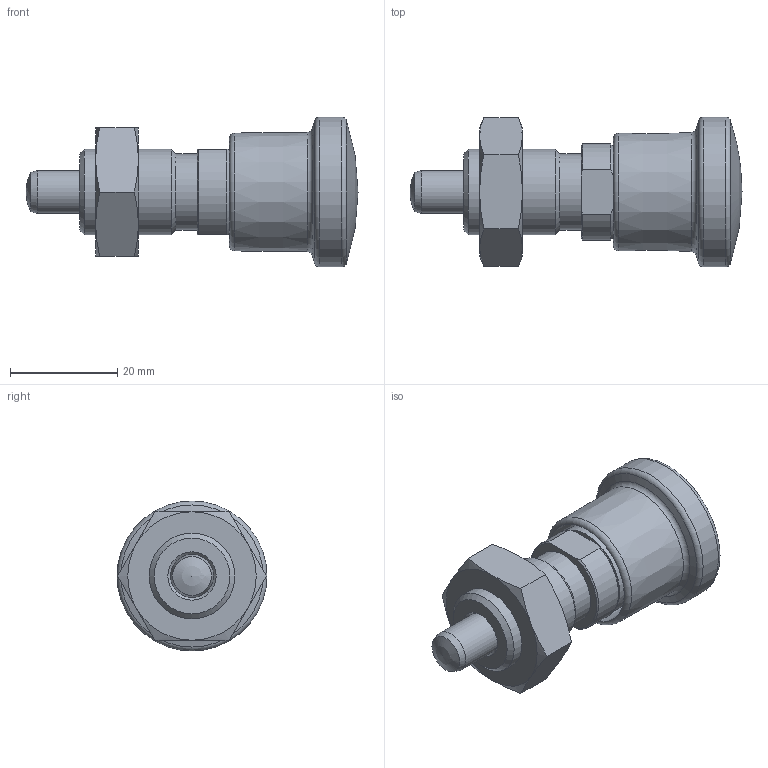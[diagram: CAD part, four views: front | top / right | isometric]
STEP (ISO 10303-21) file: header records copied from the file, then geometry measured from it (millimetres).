
FILE_DESCRIPTION( ( 'STEP AP203' ), '1' );
FILE_NAME( 'C:/Temp/Ganter_Step_05_03_2020/data/3_1/gn816/gn_816_ark/Locking plunger GN 816-8-M16x1,5-ARK (deactivated).stp', '2020-03-12T08:55:51', ( 'License CC BY-ND 4.0' ), ( 'CADENAS' ), ' ', 'PARTsolutions', ' ' );
FILE_SCHEMA( ( 'CONFIG_CONTROL_DESIGN' ) );
Length unit declared in the file: millimetre
Products named in the file (4): Locking plunger GN 816-8-M16x1,5-ARK (deactivated); _GN 816-8-M16x1,5-AR0-2; _GN 816-8-M16x1,5-AR (0)-1; _Lock nut ISO 8675 GN 816-8-M16x1,5-AK
Assembly tree (3 placements, depth 2):
  Locking plunger GN 816-8-M16x1,5-ARK (deactivated)
    _GN 816-8-M16x1,5-AR0-2
    _GN 816-8-M16x1,5-AR (0)-1
    _Lock nut ISO 8675 GN 816-8-M16x1,5-AK
Bounding box: 62 x 28 x 28 mm (x, y, z)
Volume: 17165.5 mm3; surface area: 11544.4 mm2
Topology: 3 solids, 3 shells, 75 faces, 155 edges, 94 vertices
Faces by surface type: cone 29, plane 22, cylinder 16, torus 6, sphere 2
Full cylindrical faces by diameter (mm): 2.9 x2, 3 x2, 7 x1, 8 x2, 11.1 x1, 14.2 x1, 14.376 x1, 16 x1, 18.2 x1, 20.017 x1, 28 x1
Entity records: 2287 total; most frequent: CARTESIAN_POINT 747, DIRECTION 296, ORIENTED_EDGE 228, AXIS2_PLACEMENT_3D 141, EDGE_LOOP 126, EDGE_CURVE 114, FACE_OUTER_BOUND 95, VERTEX_POINT 90
